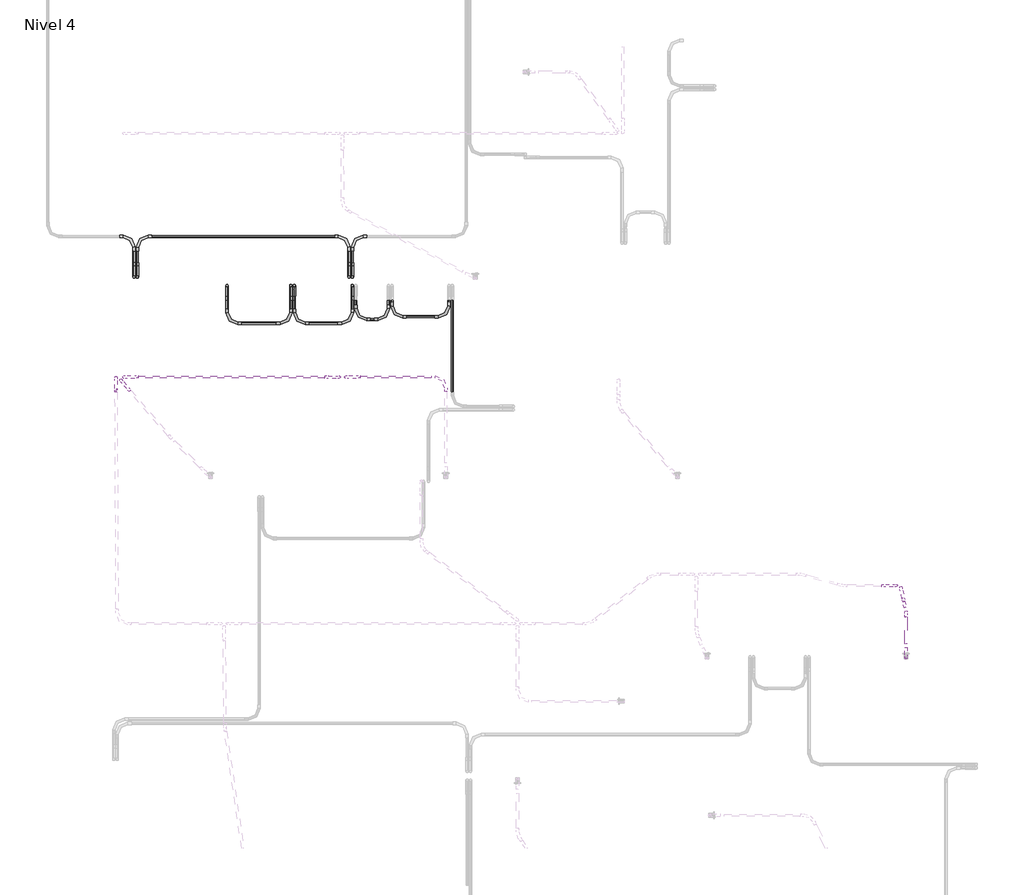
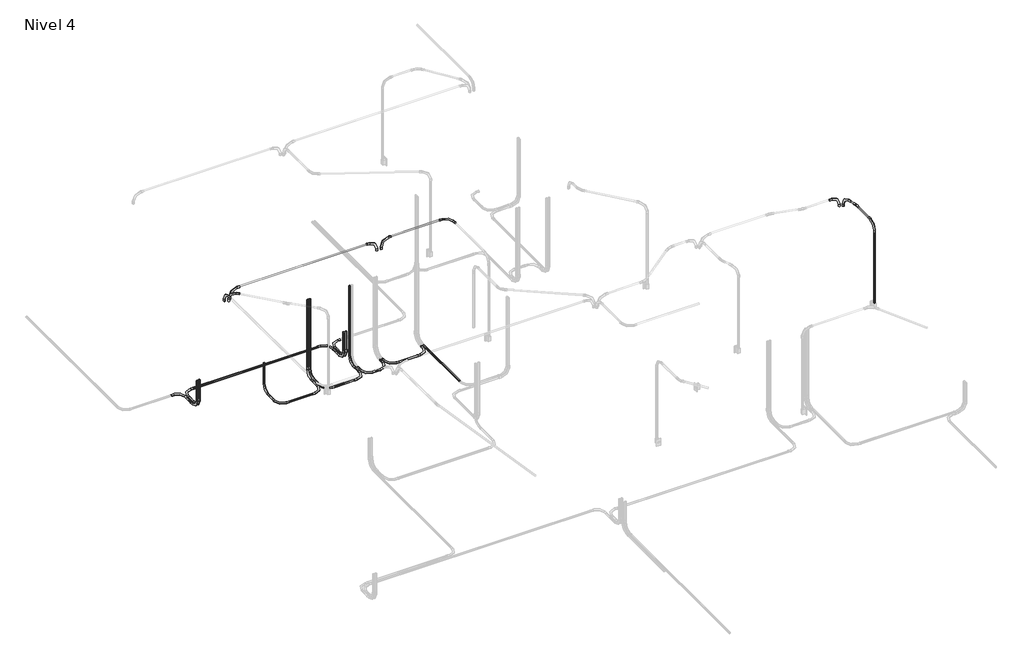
# One storey, part 5 of 9: 31 cable carrier segments, 30 cable carrier fittings.
"""IFC4 building model written with IfcOpenShell, lengths in millimetres."""

from ifc_helpers import new_model, si_unit, point, frame, frame_2d, origin, place, context, project, spatial, circle_curve, trimmed, segment, composite_curve, outline, extrude, transform, mapped, element, save
from components import m_codo_de_tubo_extremo_liso_pvc_9da73e12, m_codo_de_tubo_extremo_liso_pvc_102f0f41, m_codo_de_tubo_extremo_liso_pvc_2c15a8ce

model = new_model("IFC4")

# Units and contexts
model_context = context("Model", 3, world=origin())
ifc_project = project(units=[si_unit("LENGTHUNIT", "METRE", prefix="MILLI")], contexts=[model_context])

# Site, building, storey
site = spatial("IfcSite", under=ifc_project)
building = spatial("IfcBuilding", under=site)
storey = spatial("IfcBuildingStorey", under=building, Name="Nivel 4", Elevation=8100.0)

# Cable carrier fittings
placement = place(None, origin())
m_codo_de_tubo_extremo_liso_pvc_shape = m_codo_de_tubo_extremo_liso_pvc_9da73e12(model_context)
element("IfcCableCarrierFitting", 1, ObjectType="M_Codo de tubo - Extremo liso - PVC : CODO POTENCIA", at=placement, inside=storey, context=model_context, shape_type="MappedRepresentation", body=[
    mapped(m_codo_de_tubo_extremo_liso_pvc_shape, transform((194.4474418, 9095.3628882, 8030.0), x_axis=(0.0, 0.0, -1.0), y_axis=(0.0, 1.0, 0.0), z_axis=(1.0, 0.0, 0.0))),
])
element("IfcCableCarrierFitting", 2, ObjectType="M_Codo de tubo - Extremo liso - PVC : CODO POTENCIA", at=placement, inside=storey, context=model_context, shape_type="MappedRepresentation", body=[
    mapped(m_codo_de_tubo_extremo_liso_pvc_shape, transform((2471.9287441, 9095.3628882, 8030.0), x_axis=(0.0, 0.0, -1.0), y_axis=(0.0, 1.0, 0.0), z_axis=(1.0, 0.0, 0.0))),
])
element("IfcCableCarrierFitting", 3, ObjectType="M_Codo de tubo - Extremo liso - PVC : CODO POTENCIA", at=placement, inside=storey, context=model_context, shape_type="MappedRepresentation", body=[
    mapped(m_codo_de_tubo_extremo_liso_pvc_shape, transform((2507.9923837, 9523.463856, 8030.0), x_axis=(-1.0, 0.0, 0.0), y_axis=(0.0, -1.0, 0.0), z_axis=(0.0, 0.0, 1.0))),
])
element("IfcCableCarrierFitting", 4, ObjectType="M_Codo de tubo - Extremo liso - PVC : CODO POTENCIA", at=placement, inside=storey, context=model_context, shape_type="MappedRepresentation", body=[
    mapped(m_codo_de_tubo_extremo_liso_pvc_shape, transform((2507.9923837, 9095.3628882, 8030.0), x_axis=(0.0, 0.0, -1.0), y_axis=(0.0, 1.0, 0.0), z_axis=(1.0, 0.0, 0.0))),
])
element("IfcCableCarrierFitting", 5, ObjectType="M_Codo de tubo - Extremo liso - PVC : CODO POTENCIA", at=placement, inside=storey, context=model_context, shape_type="MappedRepresentation", body=[
    mapped(m_codo_de_tubo_extremo_liso_pvc_shape, transform((2471.9287441, 9523.463856, 8030.0), x_axis=(0.0, 1.0, 0.0), y_axis=(-1.0, 0.0, 0.0), z_axis=(0.0, 0.0, 1.0))),
])
element("IfcCableCarrierFitting", 6, ObjectType="M_Codo de tubo - Extremo liso - PVC : CODO POTENCIA", at=placement, inside=storey, context=model_context, shape_type="MappedRepresentation", body=[
    mapped(m_codo_de_tubo_extremo_liso_pvc_shape, transform((230.5110814, 9523.463856, 8030.0), x_axis=(-1.0, 0.0, 0.0), y_axis=(0.0, -1.0, 0.0), z_axis=(0.0, 0.0, 1.0))),
])
element("IfcCableCarrierFitting", 7, ObjectType="M_Codo de tubo - Extremo liso - PVC : CODO POTENCIA", at=placement, inside=storey, context=model_context, shape_type="MappedRepresentation", body=[
    mapped(m_codo_de_tubo_extremo_liso_pvc_shape, transform((230.5110814, 9095.3628882, 8030.0), x_axis=(0.0, 0.0, -1.0), y_axis=(0.0, 1.0, 0.0), z_axis=(1.0, 0.0, 0.0))),
])
element("IfcCableCarrierFitting", 8, ObjectType="M_Codo de tubo - Extremo liso - PVC : CODO POTENCIA", at=placement, inside=storey, context=model_context, shape_type="MappedRepresentation", body=[
    mapped(m_codo_de_tubo_extremo_liso_pvc_shape, transform((194.4474418, 9523.463856, 8030.0), x_axis=(0.0, 1.0, 0.0), y_axis=(-1.0, 0.0, 0.0), z_axis=(0.0, 0.0, 1.0))),
])
element("IfcCableCarrierFitting", 9, ObjectType="M_Codo de tubo - Extremo liso - PVC : CODO POTENCIA", at=placement, inside=storey, context=model_context, shape_type="MappedRepresentation", body=[
    mapped(m_codo_de_tubo_extremo_liso_pvc_shape, transform((1181.3168754, 9004.6371118, 8030.0), x_axis=(0.0, 0.0, -1.0), y_axis=(0.0, -1.0, 0.0), z_axis=(-1.0, 0.0, 0.0))),
])
element("IfcCableCarrierFitting", 10, ObjectType="M_Codo de tubo - Extremo liso - PVC : CODO POTENCIA", at=placement, inside=storey, context=model_context, shape_type="MappedRepresentation", body=[
    mapped(m_codo_de_tubo_extremo_liso_pvc_shape, transform((1856.6567743, 9004.6371118, 8030.0), x_axis=(0.0, 0.0, -1.0), y_axis=(0.0, -1.0, 0.0), z_axis=(-1.0, 0.0, 0.0))),
])
element("IfcCableCarrierFitting", 11, ObjectType="M_Codo de tubo - Extremo liso - PVC : CODO POTENCIA", at=placement, inside=storey, context=model_context, shape_type="MappedRepresentation", body=[
    mapped(m_codo_de_tubo_extremo_liso_pvc_shape, transform((1892.720414, 9004.6371118, 8030.0), x_axis=(0.0, 0.0, -1.0), y_axis=(0.0, -1.0, 0.0), z_axis=(-1.0, 0.0, 0.0))),
])
element("IfcCableCarrierFitting", 12, ObjectType="M_Codo de tubo - Extremo liso - PVC : CODO POTENCIA", at=placement, inside=storey, context=model_context, shape_type="MappedRepresentation", body=[
    mapped(m_codo_de_tubo_extremo_liso_pvc_shape, transform((2507.6648665, 9004.6371118, 8030.0), x_axis=(0.0, 0.0, -1.0), y_axis=(0.0, -1.0, 0.0), z_axis=(-1.0, 0.0, 0.0))),
])
element("IfcCableCarrierFitting", 13, ObjectType="M_Codo de tubo - Extremo liso - PVC : CODO POTENCIA", at=placement, inside=storey, context=model_context, shape_type="MappedRepresentation", body=[
    mapped(m_codo_de_tubo_extremo_liso_pvc_shape, transform((1856.6567743, 8604.6371118, 8030.0), x_axis=(1.0, 0.0, 0.0), y_axis=(0.0, 1.0, 0.0), z_axis=(0.0, 0.0, 1.0))),
])
element("IfcCableCarrierFitting", 14, ObjectType="M_Codo de tubo - Extremo liso - PVC : CODO POTENCIA", at=placement, inside=storey, context=model_context, shape_type="MappedRepresentation", body=[
    mapped(m_codo_de_tubo_extremo_liso_pvc_shape, transform((1181.3168754, 8604.6371118, 8030.0), x_axis=(0.0, -1.0, 0.0), y_axis=(1.0, 0.0, 0.0), z_axis=(0.0, 0.0, 1.0))),
])
element("IfcCableCarrierFitting", 15, ObjectType="M_Codo de tubo - Extremo liso - PVC : CODO POTENCIA", at=placement, inside=storey, context=model_context, shape_type="MappedRepresentation", body=[
    mapped(m_codo_de_tubo_extremo_liso_pvc_shape, transform((2890.8449158, 8644.6371118, 8030.0), x_axis=(1.0, 0.0, 0.0), y_axis=(0.0, 1.0, 0.0), z_axis=(0.0, 0.0, 1.0))),
])
element("IfcCableCarrierFitting", 16, ObjectType="M_Codo de tubo - Extremo liso - PVC : CODO POTENCIA", at=placement, inside=storey, context=model_context, shape_type="MappedRepresentation", body=[
    mapped(m_codo_de_tubo_extremo_liso_pvc_shape, transform((2543.7285061, 8644.6371118, 8030.0), x_axis=(0.0, -1.0, 0.0), y_axis=(1.0, 0.0, 0.0), z_axis=(0.0, 0.0, 1.0))),
])
element("IfcCableCarrierFitting", 17, ObjectType="M_Codo de tubo - Extremo liso - PVC : CODO POTENCIA", at=placement, inside=storey, context=model_context, shape_type="MappedRepresentation", body=[
    mapped(m_codo_de_tubo_extremo_liso_pvc_shape, transform((2507.6648665, 8604.6371118, 8030.0), x_axis=(1.0, 0.0, 0.0), y_axis=(0.0, 1.0, 0.0), z_axis=(0.0, 0.0, 1.0))),
])
element("IfcCableCarrierFitting", 18, ObjectType="M_Codo de tubo - Extremo liso - PVC : CODO POTENCIA", at=placement, inside=storey, context=model_context, shape_type="MappedRepresentation", body=[
    mapped(m_codo_de_tubo_extremo_liso_pvc_shape, transform((1892.720414, 8604.6371118, 8030.0), x_axis=(0.0, -1.0, 0.0), y_axis=(1.0, 0.0, 0.0), z_axis=(0.0, 0.0, 1.0))),
])
element("IfcCableCarrierFitting", 19, ObjectType="M_Codo de tubo - Extremo liso - PVC : CODO POTENCIA", at=placement, inside=storey, context=model_context, shape_type="MappedRepresentation", body=[
    mapped(m_codo_de_tubo_extremo_liso_pvc_shape, transform((2926.9085554, 8674.6371118, 8030.0), x_axis=(0.0, -1.0, 0.0), y_axis=(1.0, 0.0, 0.0), z_axis=(0.0, 0.0, 1.0))),
])
element("IfcCableCarrierFitting", 20, ObjectType="M_Codo de tubo - Extremo liso - PVC : CODO POTENCIA", at=placement, inside=storey, context=model_context, shape_type="MappedRepresentation", body=[
    mapped(m_codo_de_tubo_extremo_liso_pvc_shape, transform((3530.4120251, 8674.6371118, 8030.0), x_axis=(1.0, 0.0, 0.0), y_axis=(0.0, 1.0, 0.0), z_axis=(0.0, 0.0, 1.0))),
])
element("IfcCableCarrierFitting", 21, ObjectType="M_Codo de tubo - Extremo liso - PVC : CODO ILUMINACION", at=placement, inside=storey, context=model_context, shape_type="MappedRepresentation", body=[
    mapped(m_codo_de_tubo_extremo_liso_pvc_shape, transform((88.3958853, 8034.5901689, 10650.0), x_axis=(-1.0, 0.0, 0.0), y_axis=(0.0, 0.0, -1.0), z_axis=(0.0, -1.0, 0.0))),
])
element("IfcCableCarrierFitting", 22, ObjectType="M_Codo de tubo - Extremo liso - PVC : CODO ILUMINACION", at=placement, inside=storey, context=model_context, shape_type="MappedRepresentation", body=[
    mapped(m_codo_de_tubo_extremo_liso_pvc_shape, transform((2437.1421514, 8034.5901689, 10650.0), x_axis=(-1.0, 0.0, 0.0), y_axis=(0.0, 0.0, -1.0), z_axis=(0.0, -1.0, 0.0))),
])
element("IfcCableCarrierFitting", 23, ObjectType="M_Codo de tubo - Extremo liso - PVC : CODO ILUMINACION", at=placement, inside=storey, context=model_context, shape_type="MappedRepresentation", body=[
    mapped(m_codo_de_tubo_extremo_liso_pvc_shape, transform((3497.5007971, 8034.5901689, 10650.0), x_axis=(0.0, 1.0, 0.0), y_axis=(-1.0, 0.0, 0.0), z_axis=(0.0, 0.0, 1.0))),
])
element("IfcCableCarrierFitting", 24, ObjectType="M_Codo de tubo - Extremo liso - PVC : CODO ILUMINACION", at=placement, inside=storey, context=model_context, shape_type="MappedRepresentation", body=[
    mapped(m_codo_de_tubo_extremo_liso_pvc_shape, transform((8316.6972499, 5804.4592835, 10650.0), x_axis=(-0.2079116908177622, 0.978147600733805, 0.0), y_axis=(0.0, 0.0, -1.0), z_axis=(-0.978147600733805, -0.2079116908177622, 0.0))),
])
element("IfcCableCarrierFitting", 25, ObjectType="M_Codo de tubo - Extremo liso - PVC : CODO ILUMINACION", at=placement, inside=storey, context=model_context, shape_type="MappedRepresentation", body=[
    mapped(m_codo_de_tubo_extremo_liso_pvc_shape, transform((8372.2907497, 5056.8611243, 10650.0), x_axis=(0.0, 0.0, 1.0), y_axis=(0.0, 1.0, 0.0), z_axis=(-1.0, 0.0, 0.0))),
])
m_codo_de_tubo_extremo_liso_pvc_2_shape = m_codo_de_tubo_extremo_liso_pvc_102f0f41(model_context)
element("IfcCableCarrierFitting", 26, ObjectType="M_Codo de tubo - Extremo liso - PVC : CODO ILUMINACION", at=placement, inside=storey, context=model_context, shape_type="MappedRepresentation", body=[
    mapped(m_codo_de_tubo_extremo_liso_pvc_2_shape, transform((2369.1118904, 8034.5901689, 10650.0), x_axis=(1.0, 0.0, 0.0), y_axis=(0.0, 0.0, 1.0), z_axis=(0.0, -1.0, 0.0))),
])
element("IfcCableCarrierFitting", 27, ObjectType="M_Codo de tubo - Extremo liso - PVC : CODO ILUMINACION", at=placement, inside=storey, context=model_context, shape_type="MappedRepresentation", body=[
    mapped(m_codo_de_tubo_extremo_liso_pvc_2_shape, transform((8269.3235905, 5825.8353075, 10650.0), x_axis=(1.0, 0.0, 0.0), y_axis=(0.0, 0.0, 1.0), z_axis=(0.0, -1.0, 0.0))),
])
element("IfcCableCarrierFitting", 28, ObjectType="M_Codo de tubo - Extremo liso - PVC : CODO ILUMINACION", at=placement, inside=storey, context=model_context, shape_type="MappedRepresentation", body=[
    mapped(m_codo_de_tubo_extremo_liso_pvc_2_shape, transform((54.7290552, 8003.7690108, 10650.0), x_axis=(-0.6458247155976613, 0.7634857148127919, 0.0), y_axis=(0.0, 0.0, 1.0), z_axis=(0.7634857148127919, 0.6458247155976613, 0.0))),
])
element("IfcCableCarrierFitting", 29, ObjectType="M_Codo de tubo - Extremo liso - PVC : CODO ILUMINACION", at=placement, inside=storey, context=model_context, shape_type="MappedRepresentation", body=[
    mapped(m_codo_de_tubo_extremo_liso_pvc_2_shape, transform((4.5289809, 8029.5330199, 10650.0), x_axis=(-0.004558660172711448, 0.9999896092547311, 0.0), y_axis=(0.0, 0.0, 1.0000000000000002), z_axis=(0.9999896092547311, 0.004558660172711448, 0.0))),
])
m_codo_de_tubo_extremo_liso_pvc_3_shape = m_codo_de_tubo_extremo_liso_pvc_2c15a8ce(model_context)
element("IfcCableCarrierFitting", 30, ObjectType="M_Codo de tubo - Extremo liso - PVC : CODO ILUMINACION", at=placement, inside=storey, context=model_context, shape_type="MappedRepresentation", body=[
    mapped(m_codo_de_tubo_extremo_liso_pvc_3_shape, transform((8372.2907497, 5542.9124303, 10650.0), x_axis=(0.0, 1.0, 0.0), y_axis=(-1.0, 0.0, 0.0), z_axis=(0.0, 0.0, 1.0))),
])

# Cable carrier segments
element("IfcCableCarrierSegment", 31, ObjectType="PVC-SEL, POTENCIA", at=placement, inside=storey, context=model_context, shape_type="SweptSolid", body=[
    extrude(outline(composite_curve([segment(trimmed(circle_curve(frame_2d((8030.0, 230.5110814)), 11.71), [point((8030.0, 218.8010814))], [point((8018.29, 230.5110814))], False, "CARTESIAN"), True, "CONTINUOUS"), segment(trimmed(circle_curve(frame_2d((8030.0, 230.5110814)), 11.71), [point((8018.29, 230.5110814))], [point((8030.0, 242.2210814))], False, "CARTESIAN"), True, "CONTINUOUS"), segment(trimmed(circle_curve(frame_2d((8030.0, 230.5110814)), 11.71), [point((8030.0, 242.2210814))], [point((8041.71, 230.5110814))], False, "CARTESIAN"), True, "CONTINUOUS"), segment(trimmed(circle_curve(frame_2d((8030.0, 230.5110814)), 11.71), [point((8041.71, 230.5110814))], [point((8030.0, 218.8010814))], False, "CARTESIAN"), True, "CONTINUOUS")], self_intersect=False)), frame((0.0, 9247.7628882, 0.0), z_axis=(0.0, 1.0, 0.0), x_axis=(0.0, 0.0, 1.0)), (0.0, 0.0, 1.0), 123.3009678),
])
element("IfcCableCarrierSegment", 32, ObjectType="PVC-SEL, POTENCIA", at=placement, inside=storey, context=model_context, shape_type="SweptSolid", body=[
    extrude(outline(composite_curve([segment(trimmed(circle_curve(frame_2d((230.5110814, 9095.3628882)), 11.71), [point((242.2210814, 9095.3628882))], [point((230.5110814, 9083.6528882))], False, "CARTESIAN"), True, "CONTINUOUS"), segment(trimmed(circle_curve(frame_2d((230.5110814, 9095.3628882)), 11.71), [point((230.5110814, 9083.6528882))], [point((218.8010814, 9095.3628882))], False, "CARTESIAN"), True, "CONTINUOUS"), segment(trimmed(circle_curve(frame_2d((230.5110814, 9095.3628882)), 11.71), [point((218.8010814, 9095.3628882))], [point((230.5110814, 9107.0728882))], False, "CARTESIAN"), True, "CONTINUOUS"), segment(trimmed(circle_curve(frame_2d((230.5110814, 9095.3628882)), 11.71), [point((230.5110814, 9107.0728882))], [point((242.2210814, 9095.3628882))], False, "CARTESIAN"), True, "CONTINUOUS")], self_intersect=False)), frame((0.0, 0.0, 8182.4), z_axis=(0.0, 0.0, 1.0), x_axis=(1.0, 0.0, 0.0)), (0.0, 0.0, 1.0), 297.3020537),
])
element("IfcCableCarrierSegment", 33, ObjectType="PVC-SEL, POTENCIA", at=placement, inside=storey, context=model_context, shape_type="SweptSolid", body=[
    extrude(outline(composite_curve([segment(trimmed(circle_curve(frame_2d((8030.0, 194.4474418)), 11.71), [point((8030.0, 206.1574418))], [point((8041.71, 194.4474418))], False, "CARTESIAN"), True, "CONTINUOUS"), segment(trimmed(circle_curve(frame_2d((8030.0, 194.4474418)), 11.71), [point((8041.71, 194.4474418))], [point((8030.0, 182.7374418))], False, "CARTESIAN"), True, "CONTINUOUS"), segment(trimmed(circle_curve(frame_2d((8030.0, 194.4474418)), 11.71), [point((8030.0, 182.7374418))], [point((8018.29, 194.4474418))], False, "CARTESIAN"), True, "CONTINUOUS"), segment(trimmed(circle_curve(frame_2d((8030.0, 194.4474418)), 11.71), [point((8018.29, 194.4474418))], [point((8030.0, 206.1574418))], False, "CARTESIAN"), True, "CONTINUOUS")], self_intersect=False)), frame((0.0, 9247.7628882, 0.0), z_axis=(0.0, 1.0, 0.0), x_axis=(0.0, 0.0, 1.0)), (0.0, 0.0, 1.0), 123.3009678),
])
element("IfcCableCarrierSegment", 34, ObjectType="PVC-SEL, POTENCIA", at=placement, inside=storey, context=model_context, shape_type="SweptSolid", body=[
    extrude(outline(composite_curve([segment(trimmed(circle_curve(frame_2d((194.4474418, 9095.3628882)), 11.71), [point((206.1574418, 9095.3628882))], [point((194.4474418, 9083.6528882))], False, "CARTESIAN"), True, "CONTINUOUS"), segment(trimmed(circle_curve(frame_2d((194.4474418, 9095.3628882)), 11.71), [point((194.4474418, 9083.6528882))], [point((182.7374418, 9095.3628882))], False, "CARTESIAN"), True, "CONTINUOUS"), segment(trimmed(circle_curve(frame_2d((194.4474418, 9095.3628882)), 11.71), [point((182.7374418, 9095.3628882))], [point((194.4474418, 9107.0728882))], False, "CARTESIAN"), True, "CONTINUOUS"), segment(trimmed(circle_curve(frame_2d((194.4474418, 9095.3628882)), 11.71), [point((194.4474418, 9107.0728882))], [point((206.1574418, 9095.3628882))], False, "CARTESIAN"), True, "CONTINUOUS")], self_intersect=False)), frame((0.0, 0.0, 8182.4), z_axis=(0.0, 0.0, 1.0), x_axis=(1.0, 0.0, 0.0)), (0.0, 0.0, 1.0), 297.3020537),
])
element("IfcCableCarrierSegment", 35, ObjectType="PVC-SEL, POTENCIA", at=placement, inside=storey, context=model_context, shape_type="SweptSolid", body=[
    extrude(outline(composite_curve([segment(trimmed(circle_curve(frame_2d((8030.0, 2507.9923837)), 11.71), [point((8030.0, 2496.2823837))], [point((8018.29, 2507.9923837))], False, "CARTESIAN"), True, "CONTINUOUS"), segment(trimmed(circle_curve(frame_2d((8030.0, 2507.9923837)), 11.71), [point((8018.29, 2507.9923837))], [point((8030.0, 2519.7023837))], False, "CARTESIAN"), True, "CONTINUOUS"), segment(trimmed(circle_curve(frame_2d((8030.0, 2507.9923837)), 11.71), [point((8030.0, 2519.7023837))], [point((8041.71, 2507.9923837))], False, "CARTESIAN"), True, "CONTINUOUS"), segment(trimmed(circle_curve(frame_2d((8030.0, 2507.9923837)), 11.71), [point((8041.71, 2507.9923837))], [point((8030.0, 2496.2823837))], False, "CARTESIAN"), True, "CONTINUOUS")], self_intersect=False)), frame((0.0, 9247.7628882, 0.0), z_axis=(0.0, 1.0, 0.0), x_axis=(0.0, 0.0, 1.0)), (0.0, 0.0, 1.0), 123.3009678),
])
element("IfcCableCarrierSegment", 36, ObjectType="PVC-SEL, POTENCIA", at=placement, inside=storey, context=model_context, shape_type="SweptSolid", body=[
    extrude(outline(composite_curve([segment(trimmed(circle_curve(frame_2d((2507.9923837, 9095.3628882)), 11.71), [point((2519.7023837, 9095.3628882))], [point((2507.9923837, 9083.6528882))], False, "CARTESIAN"), True, "CONTINUOUS"), segment(trimmed(circle_curve(frame_2d((2507.9923837, 9095.3628882)), 11.71), [point((2507.9923837, 9083.6528882))], [point((2496.2823837, 9095.3628882))], False, "CARTESIAN"), True, "CONTINUOUS"), segment(trimmed(circle_curve(frame_2d((2507.9923837, 9095.3628882)), 11.71), [point((2496.2823837, 9095.3628882))], [point((2507.9923837, 9107.0728882))], False, "CARTESIAN"), True, "CONTINUOUS"), segment(trimmed(circle_curve(frame_2d((2507.9923837, 9095.3628882)), 11.71), [point((2507.9923837, 9107.0728882))], [point((2519.7023837, 9095.3628882))], False, "CARTESIAN"), True, "CONTINUOUS")], self_intersect=False)), frame((0.0, 0.0, 8182.4), z_axis=(0.0, 0.0, 1.0), x_axis=(1.0, 0.0, 0.0)), (0.0, 0.0, 1.0), 297.3020537),
])
element("IfcCableCarrierSegment", 37, ObjectType="PVC-SEL, POTENCIA", at=placement, inside=storey, context=model_context, shape_type="SweptSolid", body=[
    extrude(outline(composite_curve([segment(trimmed(circle_curve(frame_2d((8030.0, 2471.9287441)), 11.71), [point((8030.0, 2483.6387441))], [point((8041.71, 2471.9287441))], False, "CARTESIAN"), True, "CONTINUOUS"), segment(trimmed(circle_curve(frame_2d((8030.0, 2471.9287441)), 11.71), [point((8041.71, 2471.9287441))], [point((8030.0, 2460.2187441))], False, "CARTESIAN"), True, "CONTINUOUS"), segment(trimmed(circle_curve(frame_2d((8030.0, 2471.9287441)), 11.71), [point((8030.0, 2460.2187441))], [point((8018.29, 2471.9287441))], False, "CARTESIAN"), True, "CONTINUOUS"), segment(trimmed(circle_curve(frame_2d((8030.0, 2471.9287441)), 11.71), [point((8018.29, 2471.9287441))], [point((8030.0, 2483.6387441))], False, "CARTESIAN"), True, "CONTINUOUS")], self_intersect=False)), frame((0.0, 9247.7628882, 0.0), z_axis=(0.0, 1.0, 0.0), x_axis=(0.0, 0.0, 1.0)), (0.0, 0.0, 1.0), 123.3009678),
])
element("IfcCableCarrierSegment", 38, ObjectType="PVC-SEL, POTENCIA", at=placement, inside=storey, context=model_context, shape_type="SweptSolid", body=[
    extrude(outline(composite_curve([segment(trimmed(circle_curve(frame_2d((2471.9287441, 9095.3628882)), 11.71), [point((2483.6387441, 9095.3628882))], [point((2471.9287441, 9083.6528882))], False, "CARTESIAN"), True, "CONTINUOUS"), segment(trimmed(circle_curve(frame_2d((2471.9287441, 9095.3628882)), 11.71), [point((2471.9287441, 9083.6528882))], [point((2460.2187441, 9095.3628882))], False, "CARTESIAN"), True, "CONTINUOUS"), segment(trimmed(circle_curve(frame_2d((2471.9287441, 9095.3628882)), 11.71), [point((2460.2187441, 9095.3628882))], [point((2471.9287441, 9107.0728882))], False, "CARTESIAN"), True, "CONTINUOUS"), segment(trimmed(circle_curve(frame_2d((2471.9287441, 9095.3628882)), 11.71), [point((2471.9287441, 9107.0728882))], [point((2483.6387441, 9095.3628882))], False, "CARTESIAN"), True, "CONTINUOUS")], self_intersect=False)), frame((0.0, 0.0, 8182.4), z_axis=(0.0, 0.0, 1.0), x_axis=(1.0, 0.0, 0.0)), (0.0, 0.0, 1.0), 297.3020537),
])
element("IfcCableCarrierSegment", 39, ObjectType="PVC-SEL, POTENCIA", at=placement, inside=storey, context=model_context, shape_type="SweptSolid", body=[
    extrude(outline(composite_curve([segment(trimmed(circle_curve(frame_2d((9523.463856, 8030.0)), 11.71), [point((9535.173856, 8030.0))], [point((9523.463856, 8018.29))], False, "CARTESIAN"), True, "CONTINUOUS"), segment(trimmed(circle_curve(frame_2d((9523.463856, 8030.0)), 11.71), [point((9523.463856, 8018.29))], [point((9511.753856, 8030.0))], False, "CARTESIAN"), True, "CONTINUOUS"), segment(trimmed(circle_curve(frame_2d((9523.463856, 8030.0)), 11.71), [point((9511.753856, 8030.0))], [point((9523.463856, 8041.71))], False, "CARTESIAN"), True, "CONTINUOUS"), segment(trimmed(circle_curve(frame_2d((9523.463856, 8030.0)), 11.71), [point((9523.463856, 8041.71))], [point((9535.173856, 8030.0))], False, "CARTESIAN"), True, "CONTINUOUS")], self_intersect=False)), frame((382.9110814, 0.0, 0.0), z_axis=(1.0, 0.0, 0.0), x_axis=(0.0, 1.0, 0.0)), (0.0, 0.0, 1.0), 1936.6176627),
])
element("IfcCableCarrierSegment", 40, ObjectType="PVC-SEL, POTENCIA", at=placement, inside=storey, context=model_context, shape_type="SweptSolid", body=[
    extrude(outline(composite_curve([segment(trimmed(circle_curve(frame_2d((8030.0, 1181.3168754)), 11.71), [point((8030.0, 1169.6068754))], [point((8018.29, 1181.3168754))], False, "CARTESIAN"), True, "CONTINUOUS"), segment(trimmed(circle_curve(frame_2d((8030.0, 1181.3168754)), 11.71), [point((8018.29, 1181.3168754))], [point((8030.0, 1193.0268754))], False, "CARTESIAN"), True, "CONTINUOUS"), segment(trimmed(circle_curve(frame_2d((8030.0, 1181.3168754)), 11.71), [point((8030.0, 1193.0268754))], [point((8041.71, 1181.3168754))], False, "CARTESIAN"), True, "CONTINUOUS"), segment(trimmed(circle_curve(frame_2d((8030.0, 1181.3168754)), 11.71), [point((8041.71, 1181.3168754))], [point((8030.0, 1169.6068754))], False, "CARTESIAN"), True, "CONTINUOUS")], self_intersect=False)), frame((0.0, 8757.0371118, 0.0), z_axis=(0.0, 1.0, 0.0), x_axis=(0.0, 0.0, 1.0)), (0.0, 0.0, 1.0), 95.2),
])
element("IfcCableCarrierSegment", 41, ObjectType="PVC-SEL, POTENCIA", at=placement, inside=storey, context=model_context, shape_type="SweptSolid", body=[
    extrude(outline(composite_curve([segment(trimmed(circle_curve(frame_2d((1181.3168754, 9004.6371118)), 11.71), [point((1193.0268754, 9004.6371118))], [point((1181.3168754, 8992.9271118))], False, "CARTESIAN"), True, "CONTINUOUS"), segment(trimmed(circle_curve(frame_2d((1181.3168754, 9004.6371118)), 11.71), [point((1181.3168754, 8992.9271118))], [point((1169.6068754, 9004.6371118))], False, "CARTESIAN"), True, "CONTINUOUS"), segment(trimmed(circle_curve(frame_2d((1181.3168754, 9004.6371118)), 11.71), [point((1169.6068754, 9004.6371118))], [point((1181.3168754, 9016.3471118))], False, "CARTESIAN"), True, "CONTINUOUS"), segment(trimmed(circle_curve(frame_2d((1181.3168754, 9004.6371118)), 11.71), [point((1181.3168754, 9016.3471118))], [point((1193.0268754, 9004.6371118))], False, "CARTESIAN"), True, "CONTINUOUS")], self_intersect=False)), frame((0.0, 0.0, 8182.4), z_axis=(0.0, 0.0, 1.0), x_axis=(1.0, 0.0, 0.0)), (0.0, 0.0, 1.0), 297.3020537),
])
element("IfcCableCarrierSegment", 42, ObjectType="PVC-SEL, POTENCIA", at=placement, inside=storey, context=model_context, shape_type="SweptSolid", body=[
    extrude(outline(composite_curve([segment(trimmed(circle_curve(frame_2d((8604.6371118, 8030.0)), 11.71), [point((8616.3471118, 8030.0))], [point((8604.6371118, 8018.29))], False, "CARTESIAN"), True, "CONTINUOUS"), segment(trimmed(circle_curve(frame_2d((8604.6371118, 8030.0)), 11.71), [point((8604.6371118, 8018.29))], [point((8592.9271118, 8030.0))], False, "CARTESIAN"), True, "CONTINUOUS"), segment(trimmed(circle_curve(frame_2d((8604.6371118, 8030.0)), 11.71), [point((8592.9271118, 8030.0))], [point((8604.6371118, 8041.71))], False, "CARTESIAN"), True, "CONTINUOUS"), segment(trimmed(circle_curve(frame_2d((8604.6371118, 8030.0)), 11.71), [point((8604.6371118, 8041.71))], [point((8616.3471118, 8030.0))], False, "CARTESIAN"), True, "CONTINUOUS")], self_intersect=False)), frame((1333.7168754, 0.0, 0.0), z_axis=(1.0, 0.0, 0.0), x_axis=(0.0, 1.0, 0.0)), (0.0, 0.0, 1.0), 370.5398989),
])
element("IfcCableCarrierSegment", 43, ObjectType="PVC-SEL, POTENCIA", at=placement, inside=storey, context=model_context, shape_type="SweptSolid", body=[
    extrude(outline(composite_curve([segment(trimmed(circle_curve(frame_2d((8030.0, 1856.6567743)), 11.71), [point((8030.0, 1844.9467743))], [point((8018.29, 1856.6567743))], False, "CARTESIAN"), True, "CONTINUOUS"), segment(trimmed(circle_curve(frame_2d((8030.0, 1856.6567743)), 11.71), [point((8018.29, 1856.6567743))], [point((8030.0, 1868.3667743))], False, "CARTESIAN"), True, "CONTINUOUS"), segment(trimmed(circle_curve(frame_2d((8030.0, 1856.6567743)), 11.71), [point((8030.0, 1868.3667743))], [point((8041.71, 1856.6567743))], False, "CARTESIAN"), True, "CONTINUOUS"), segment(trimmed(circle_curve(frame_2d((8030.0, 1856.6567743)), 11.71), [point((8041.71, 1856.6567743))], [point((8030.0, 1844.9467743))], False, "CARTESIAN"), True, "CONTINUOUS")], self_intersect=False)), frame((0.0, 8757.0371118, 0.0), z_axis=(0.0, 1.0, 0.0), x_axis=(0.0, 0.0, 1.0)), (0.0, 0.0, 1.0), 95.2),
])
element("IfcCableCarrierSegment", 44, ObjectType="PVC-SEL, POTENCIA", at=placement, inside=storey, context=model_context, shape_type="SweptSolid", body=[
    extrude(outline(composite_curve([segment(trimmed(circle_curve(frame_2d((1856.6567743, 9004.6371118)), 11.71), [point((1868.3667743, 9004.6371118))], [point((1856.6567743, 8992.9271118))], False, "CARTESIAN"), True, "CONTINUOUS"), segment(trimmed(circle_curve(frame_2d((1856.6567743, 9004.6371118)), 11.71), [point((1856.6567743, 8992.9271118))], [point((1844.9467743, 9004.6371118))], False, "CARTESIAN"), True, "CONTINUOUS"), segment(trimmed(circle_curve(frame_2d((1856.6567743, 9004.6371118)), 11.71), [point((1844.9467743, 9004.6371118))], [point((1856.6567743, 9016.3471118))], False, "CARTESIAN"), True, "CONTINUOUS"), segment(trimmed(circle_curve(frame_2d((1856.6567743, 9004.6371118)), 11.71), [point((1856.6567743, 9016.3471118))], [point((1868.3667743, 9004.6371118))], False, "CARTESIAN"), True, "CONTINUOUS")], self_intersect=False)), frame((0.0, 0.0, 8182.4), z_axis=(0.0, 0.0, 1.0), x_axis=(1.0, 0.0, 0.0)), (0.0, 0.0, 1.0), 1097.3020537),
])
element("IfcCableCarrierSegment", 45, ObjectType="PVC-SEL, POTENCIA", at=placement, inside=storey, context=model_context, shape_type="SweptSolid", body=[
    extrude(outline(composite_curve([segment(trimmed(circle_curve(frame_2d((8030.0, 1892.720414)), 11.71), [point((8030.0, 1881.010414))], [point((8018.29, 1892.720414))], False, "CARTESIAN"), True, "CONTINUOUS"), segment(trimmed(circle_curve(frame_2d((8030.0, 1892.720414)), 11.71), [point((8018.29, 1892.720414))], [point((8030.0, 1904.430414))], False, "CARTESIAN"), True, "CONTINUOUS"), segment(trimmed(circle_curve(frame_2d((8030.0, 1892.720414)), 11.71), [point((8030.0, 1904.430414))], [point((8041.71, 1892.720414))], False, "CARTESIAN"), True, "CONTINUOUS"), segment(trimmed(circle_curve(frame_2d((8030.0, 1892.720414)), 11.71), [point((8041.71, 1892.720414))], [point((8030.0, 1881.010414))], False, "CARTESIAN"), True, "CONTINUOUS")], self_intersect=False)), frame((0.0, 8757.0371118, 0.0), z_axis=(0.0, 1.0, 0.0), x_axis=(0.0, 0.0, 1.0)), (0.0, 0.0, 1.0), 95.2),
])
element("IfcCableCarrierSegment", 46, ObjectType="PVC-SEL, POTENCIA", at=placement, inside=storey, context=model_context, shape_type="SweptSolid", body=[
    extrude(outline(composite_curve([segment(trimmed(circle_curve(frame_2d((1892.720414, 9004.6371118)), 11.71), [point((1904.430414, 9004.6371118))], [point((1892.720414, 8992.9271118))], False, "CARTESIAN"), True, "CONTINUOUS"), segment(trimmed(circle_curve(frame_2d((1892.720414, 9004.6371118)), 11.71), [point((1892.720414, 8992.9271118))], [point((1881.010414, 9004.6371118))], False, "CARTESIAN"), True, "CONTINUOUS"), segment(trimmed(circle_curve(frame_2d((1892.720414, 9004.6371118)), 11.71), [point((1881.010414, 9004.6371118))], [point((1892.720414, 9016.3471118))], False, "CARTESIAN"), True, "CONTINUOUS"), segment(trimmed(circle_curve(frame_2d((1892.720414, 9004.6371118)), 11.71), [point((1892.720414, 9016.3471118))], [point((1904.430414, 9004.6371118))], False, "CARTESIAN"), True, "CONTINUOUS")], self_intersect=False)), frame((0.0, 0.0, 8182.4), z_axis=(0.0, 0.0, 1.0), x_axis=(1.0, 0.0, 0.0)), (0.0, 0.0, 1.0), 1097.3020537),
])
element("IfcCableCarrierSegment", 47, ObjectType="PVC-SEL, POTENCIA", at=placement, inside=storey, context=model_context, shape_type="SweptSolid", body=[
    extrude(outline(composite_curve([segment(trimmed(circle_curve(frame_2d((8030.0, 2507.6648665)), 11.71), [point((8030.0, 2495.9548665))], [point((8018.29, 2507.6648665))], False, "CARTESIAN"), True, "CONTINUOUS"), segment(trimmed(circle_curve(frame_2d((8030.0, 2507.6648665)), 11.71), [point((8018.29, 2507.6648665))], [point((8030.0, 2519.3748665))], False, "CARTESIAN"), True, "CONTINUOUS"), segment(trimmed(circle_curve(frame_2d((8030.0, 2507.6648665)), 11.71), [point((8030.0, 2519.3748665))], [point((8041.71, 2507.6648665))], False, "CARTESIAN"), True, "CONTINUOUS"), segment(trimmed(circle_curve(frame_2d((8030.0, 2507.6648665)), 11.71), [point((8041.71, 2507.6648665))], [point((8030.0, 2495.9548665))], False, "CARTESIAN"), True, "CONTINUOUS")], self_intersect=False)), frame((0.0, 8757.0371118, 0.0), z_axis=(0.0, 1.0, 0.0), x_axis=(0.0, 0.0, 1.0)), (0.0, 0.0, 1.0), 95.2),
])
element("IfcCableCarrierSegment", 48, ObjectType="PVC-SEL, POTENCIA", at=placement, inside=storey, context=model_context, shape_type="SweptSolid", body=[
    extrude(outline(composite_curve([segment(trimmed(circle_curve(frame_2d((2507.6648665, 9004.6371118)), 11.71), [point((2519.3748665, 9004.6371118))], [point((2507.6648665, 8992.9271118))], False, "CARTESIAN"), True, "CONTINUOUS"), segment(trimmed(circle_curve(frame_2d((2507.6648665, 9004.6371118)), 11.71), [point((2507.6648665, 8992.9271118))], [point((2495.9548665, 9004.6371118))], False, "CARTESIAN"), True, "CONTINUOUS"), segment(trimmed(circle_curve(frame_2d((2507.6648665, 9004.6371118)), 11.71), [point((2495.9548665, 9004.6371118))], [point((2507.6648665, 9016.3471118))], False, "CARTESIAN"), True, "CONTINUOUS"), segment(trimmed(circle_curve(frame_2d((2507.6648665, 9004.6371118)), 11.71), [point((2507.6648665, 9016.3471118))], [point((2519.3748665, 9004.6371118))], False, "CARTESIAN"), True, "CONTINUOUS")], self_intersect=False)), frame((0.0, 0.0, 8182.4), z_axis=(0.0, 0.0, 1.0), x_axis=(1.0, 0.0, 0.0)), (0.0, 0.0, 1.0), 1097.3020537),
])
element("IfcCableCarrierSegment", 49, ObjectType="PVC-SEL, POTENCIA", at=placement, inside=storey, context=model_context, shape_type="SweptSolid", body=[
    extrude(outline(composite_curve([segment(trimmed(circle_curve(frame_2d((8030.0, 2543.7285061)), 11.71), [point((8030.0, 2532.0185061))], [point((8018.29, 2543.7285061))], False, "CARTESIAN"), True, "CONTINUOUS"), segment(trimmed(circle_curve(frame_2d((8030.0, 2543.7285061)), 11.71), [point((8018.29, 2543.7285061))], [point((8030.0, 2555.4385061))], False, "CARTESIAN"), True, "CONTINUOUS"), segment(trimmed(circle_curve(frame_2d((8030.0, 2543.7285061)), 11.71), [point((8030.0, 2555.4385061))], [point((8041.71, 2543.7285061))], False, "CARTESIAN"), True, "CONTINUOUS"), segment(trimmed(circle_curve(frame_2d((8030.0, 2543.7285061)), 11.71), [point((8041.71, 2543.7285061))], [point((8030.0, 2532.0185061))], False, "CARTESIAN"), True, "CONTINUOUS")], self_intersect=False)), frame((0.0, 8797.0371118, 0.0), z_axis=(0.0, 1.0, 0.0), x_axis=(0.0, 0.0, 1.0)), (0.0, 0.0, 1.0), 55.2),
])
element("IfcCableCarrierSegment", 50, ObjectType="PVC-SEL, POTENCIA", at=placement, inside=storey, context=model_context, shape_type="SweptSolid", body=[
    extrude(outline(composite_curve([segment(trimmed(circle_curve(frame_2d((8030.0, 2890.8449158)), 11.71), [point((8030.0, 2879.1349158))], [point((8018.29, 2890.8449158))], False, "CARTESIAN"), True, "CONTINUOUS"), segment(trimmed(circle_curve(frame_2d((8030.0, 2890.8449158)), 11.71), [point((8018.29, 2890.8449158))], [point((8030.0, 2902.5549158))], False, "CARTESIAN"), True, "CONTINUOUS"), segment(trimmed(circle_curve(frame_2d((8030.0, 2890.8449158)), 11.71), [point((8030.0, 2902.5549158))], [point((8041.71, 2890.8449158))], False, "CARTESIAN"), True, "CONTINUOUS"), segment(trimmed(circle_curve(frame_2d((8030.0, 2890.8449158)), 11.71), [point((8041.71, 2890.8449158))], [point((8030.0, 2879.1349158))], False, "CARTESIAN"), True, "CONTINUOUS")], self_intersect=False)), frame((0.0, 8797.0371118, 0.0), z_axis=(0.0, 1.0, 0.0), x_axis=(0.0, 0.0, 1.0)), (0.0, 0.0, 1.0), 55.2),
])
element("IfcCableCarrierSegment", 51, ObjectType="PVC-SEL, POTENCIA", at=placement, inside=storey, context=model_context, shape_type="SweptSolid", body=[
    extrude(outline(composite_curve([segment(trimmed(circle_curve(frame_2d((8030.0, 2926.9085554)), 11.71), [point((8030.0, 2915.1985554))], [point((8018.29, 2926.9085554))], False, "CARTESIAN"), True, "CONTINUOUS"), segment(trimmed(circle_curve(frame_2d((8030.0, 2926.9085554)), 11.71), [point((8018.29, 2926.9085554))], [point((8030.0, 2938.6185554))], False, "CARTESIAN"), True, "CONTINUOUS"), segment(trimmed(circle_curve(frame_2d((8030.0, 2926.9085554)), 11.71), [point((8030.0, 2938.6185554))], [point((8041.71, 2926.9085554))], False, "CARTESIAN"), True, "CONTINUOUS"), segment(trimmed(circle_curve(frame_2d((8030.0, 2926.9085554)), 11.71), [point((8041.71, 2926.9085554))], [point((8030.0, 2915.1985554))], False, "CARTESIAN"), True, "CONTINUOUS")], self_intersect=False)), frame((0.0, 8827.0371118, 0.0), z_axis=(0.0, 1.0, 0.0), x_axis=(0.0, 0.0, 1.0)), (0.0, 0.0, 1.0), 25.2),
])
element("IfcCableCarrierSegment", 52, ObjectType="PVC-SEL, POTENCIA", at=placement, inside=storey, context=model_context, shape_type="SweptSolid", body=[
    extrude(outline(composite_curve([segment(trimmed(circle_curve(frame_2d((8030.0, 3530.4120251)), 11.71), [point((8030.0, 3542.1220251))], [point((8041.71, 3530.4120251))], False, "CARTESIAN"), True, "CONTINUOUS"), segment(trimmed(circle_curve(frame_2d((8030.0, 3530.4120251)), 11.71), [point((8041.71, 3530.4120251))], [point((8030.0, 3518.7020251))], False, "CARTESIAN"), True, "CONTINUOUS"), segment(trimmed(circle_curve(frame_2d((8030.0, 3530.4120251)), 11.71), [point((8030.0, 3518.7020251))], [point((8018.29, 3530.4120251))], False, "CARTESIAN"), True, "CONTINUOUS"), segment(trimmed(circle_curve(frame_2d((8030.0, 3530.4120251)), 11.71), [point((8018.29, 3530.4120251))], [point((8030.0, 3542.1220251))], False, "CARTESIAN"), True, "CONTINUOUS")], self_intersect=False)), frame((0.0, 8827.0371118, 0.0), z_axis=(0.0, 1.0, 0.0), x_axis=(0.0, 0.0, 1.0)), (0.0, 0.0, 1.0), 25.2),
])
element("IfcCableCarrierSegment", 53, ObjectType="PVC-SEL, POTENCIA", at=placement, inside=storey, context=model_context, shape_type="SweptSolid", body=[
    extrude(outline(composite_curve([segment(trimmed(circle_curve(frame_2d((8030.0, 3566.4756648)), 11.71), [point((8030.0, 3554.7656648))], [point((8018.29, 3566.4756648))], False, "CARTESIAN"), True, "CONTINUOUS"), segment(trimmed(circle_curve(frame_2d((8030.0, 3566.4756648)), 11.71), [point((8018.29, 3566.4756648))], [point((8030.0, 3578.1856648))], False, "CARTESIAN"), True, "CONTINUOUS"), segment(trimmed(circle_curve(frame_2d((8030.0, 3566.4756648)), 11.71), [point((8030.0, 3578.1856648))], [point((8041.71, 3566.4756648))], False, "CARTESIAN"), True, "CONTINUOUS"), segment(trimmed(circle_curve(frame_2d((8030.0, 3566.4756648)), 11.71), [point((8041.71, 3566.4756648))], [point((8030.0, 3554.7656648))], False, "CARTESIAN"), True, "CONTINUOUS")], self_intersect=False)), frame((0.0, 7875.5932788, 0.0), z_axis=(0.0, 1.0, 0.0), x_axis=(0.0, 0.0, 1.0)), (0.0, 0.0, 1.0), 976.643833),
])
element("IfcCableCarrierSegment", 54, ObjectType="PVC-SEL, POTENCIA", at=placement, inside=storey, context=model_context, shape_type="SweptSolid", body=[
    extrude(outline(composite_curve([segment(trimmed(circle_curve(frame_2d((8604.6371118, 8030.0)), 11.71), [point((8616.3471118, 8030.0))], [point((8604.6371118, 8018.29))], False, "CARTESIAN"), True, "CONTINUOUS"), segment(trimmed(circle_curve(frame_2d((8604.6371118, 8030.0)), 11.71), [point((8604.6371118, 8018.29))], [point((8592.9271118, 8030.0))], False, "CARTESIAN"), True, "CONTINUOUS"), segment(trimmed(circle_curve(frame_2d((8604.6371118, 8030.0)), 11.71), [point((8592.9271118, 8030.0))], [point((8604.6371118, 8041.71))], False, "CARTESIAN"), True, "CONTINUOUS"), segment(trimmed(circle_curve(frame_2d((8604.6371118, 8030.0)), 11.71), [point((8604.6371118, 8041.71))], [point((8616.3471118, 8030.0))], False, "CARTESIAN"), True, "CONTINUOUS")], self_intersect=False)), frame((2045.120414, 0.0, 0.0), z_axis=(1.0, 0.0, 0.0), x_axis=(0.0, 1.0, 0.0)), (0.0, 0.0, 1.0), 310.1444525),
])
element("IfcCableCarrierSegment", 55, ObjectType="PVC-SEL, POTENCIA", at=placement, inside=storey, context=model_context, shape_type="SweptSolid", body=[
    extrude(outline(composite_curve([segment(trimmed(circle_curve(frame_2d((8644.6371118, 8030.0)), 11.71), [point((8656.3471118, 8030.0))], [point((8644.6371118, 8018.29))], False, "CARTESIAN"), True, "CONTINUOUS"), segment(trimmed(circle_curve(frame_2d((8644.6371118, 8030.0)), 11.71), [point((8644.6371118, 8018.29))], [point((8632.9271118, 8030.0))], False, "CARTESIAN"), True, "CONTINUOUS"), segment(trimmed(circle_curve(frame_2d((8644.6371118, 8030.0)), 11.71), [point((8632.9271118, 8030.0))], [point((8644.6371118, 8041.71))], False, "CARTESIAN"), True, "CONTINUOUS"), segment(trimmed(circle_curve(frame_2d((8644.6371118, 8030.0)), 11.71), [point((8644.6371118, 8041.71))], [point((8656.3471118, 8030.0))], False, "CARTESIAN"), True, "CONTINUOUS")], self_intersect=False)), frame((2696.1285061, 0.0, 0.0), z_axis=(1.0, 0.0, 0.0), x_axis=(0.0, 1.0, 0.0)), (0.0, 0.0, 1.0), 42.3164097),
])
element("IfcCableCarrierSegment", 56, ObjectType="PVC-SEL, POTENCIA", at=placement, inside=storey, context=model_context, shape_type="SweptSolid", body=[
    extrude(outline(composite_curve([segment(trimmed(circle_curve(frame_2d((8674.6371118, 8030.0)), 11.71), [point((8662.9271118, 8030.0))], [point((8674.6371118, 8041.71))], False, "CARTESIAN"), True, "CONTINUOUS"), segment(trimmed(circle_curve(frame_2d((8674.6371118, 8030.0)), 11.71), [point((8674.6371118, 8041.71))], [point((8686.3471118, 8030.0))], False, "CARTESIAN"), True, "CONTINUOUS"), segment(trimmed(circle_curve(frame_2d((8674.6371118, 8030.0)), 11.71), [point((8686.3471118, 8030.0))], [point((8674.6371118, 8018.29))], False, "CARTESIAN"), True, "CONTINUOUS"), segment(trimmed(circle_curve(frame_2d((8674.6371118, 8030.0)), 11.71), [point((8674.6371118, 8018.29))], [point((8662.9271118, 8030.0))], False, "CARTESIAN"), True, "CONTINUOUS")], self_intersect=False)), frame((3079.3085554, 0.0, 0.0), z_axis=(1.0, 0.0, 0.0), x_axis=(0.0, 1.0, 0.0)), (0.0, 0.0, 1.0), 298.7034697),
])
element("IfcCableCarrierSegment", 57, ObjectType="PVC-SEL ILUMINACION", at=placement, inside=storey, context=model_context, shape_type="SweptSolid", body=[
    extrude(outline(composite_curve([segment(trimmed(circle_curve(frame_2d((8034.5901689, 10650.0)), 11.71), [point((8046.3001689, 10650.0))], [point((8034.5901689, 10638.29))], False, "CARTESIAN"), True, "CONTINUOUS"), segment(trimmed(circle_curve(frame_2d((8034.5901689, 10650.0)), 11.71), [point((8034.5901689, 10638.29))], [point((8022.8801689, 10650.0))], False, "CARTESIAN"), True, "CONTINUOUS"), segment(trimmed(circle_curve(frame_2d((8034.5901689, 10650.0)), 11.71), [point((8022.8801689, 10650.0))], [point((8034.5901689, 10661.71))], False, "CARTESIAN"), True, "CONTINUOUS"), segment(trimmed(circle_curve(frame_2d((8034.5901689, 10650.0)), 11.71), [point((8034.5901689, 10661.71))], [point((8046.3001689, 10650.0))], False, "CARTESIAN"), True, "CONTINUOUS")], self_intersect=False)), frame((240.7958853, 0.0, 0.0), z_axis=(1.0, 0.0, 0.0), x_axis=(0.0, 1.0, 0.0)), (0.0, 0.0, 1.0), 1975.9160051),
])
element("IfcCableCarrierSegment", 58, ObjectType="PVC-SEL ILUMINACION", at=placement, inside=storey, context=model_context, shape_type="SweptSolid", body=[
    extrude(outline(composite_curve([segment(trimmed(circle_curve(frame_2d((8034.5901689, 10650.0)), 11.71), [point((8022.8801689, 10650.0))], [point((8034.5901689, 10661.71))], False, "CARTESIAN"), True, "CONTINUOUS"), segment(trimmed(circle_curve(frame_2d((8034.5901689, 10650.0)), 11.71), [point((8034.5901689, 10661.71))], [point((8046.3001689, 10650.0))], False, "CARTESIAN"), True, "CONTINUOUS"), segment(trimmed(circle_curve(frame_2d((8034.5901689, 10650.0)), 11.71), [point((8046.3001689, 10650.0))], [point((8034.5901689, 10638.29))], False, "CARTESIAN"), True, "CONTINUOUS"), segment(trimmed(circle_curve(frame_2d((8034.5901689, 10650.0)), 11.71), [point((8034.5901689, 10638.29))], [point((8022.8801689, 10650.0))], False, "CARTESIAN"), True, "CONTINUOUS")], self_intersect=False)), frame((2589.5421514, 0.0, 0.0), z_axis=(1.0, 0.0, 0.0), x_axis=(0.0, 1.0, 0.0)), (0.0, 0.0, 1.0), 755.5586457),
])
element("IfcCableCarrierSegment", 59, ObjectType="PVC-SEL ILUMINACION", at=placement, inside=storey, context=model_context, shape_type="SweptSolid", body=[
    extrude(outline(composite_curve([segment(trimmed(circle_curve(frame_2d((10650.0, 8372.2907497)), 11.71), [point((10650.0, 8384.0007497))], [point((10661.71, 8372.2907497))], False, "CARTESIAN"), True, "CONTINUOUS"), segment(trimmed(circle_curve(frame_2d((10650.0, 8372.2907497)), 11.71), [point((10661.71, 8372.2907497))], [point((10650.0, 8360.5807497))], False, "CARTESIAN"), True, "CONTINUOUS"), segment(trimmed(circle_curve(frame_2d((10650.0, 8372.2907497)), 11.71), [point((10650.0, 8360.5807497))], [point((10638.29, 8372.2907497))], False, "CARTESIAN"), True, "CONTINUOUS"), segment(trimmed(circle_curve(frame_2d((10650.0, 8372.2907497)), 11.71), [point((10638.29, 8372.2907497))], [point((10650.0, 8384.0007497))], False, "CARTESIAN"), True, "CONTINUOUS")], self_intersect=False)), frame((0.0, 5209.2611243, 0.0), z_axis=(0.0, 1.0, 0.0), x_axis=(0.0, 0.0, 1.0)), (0.0, 0.0, 1.0), 283.5378919),
])
element("IfcCableCarrierSegment", 60, ObjectType="PVC-SEL ILUMINACION", at=placement, inside=storey, context=model_context, shape_type="SweptSolid", body=[
    extrude(outline(composite_curve([segment(trimmed(circle_curve(frame_2d((8372.2907497, 5056.8611243)), 11.71), [point((8360.5807497, 5056.8611243))], [point((8372.2907497, 5068.5711243))], False, "CARTESIAN"), True, "CONTINUOUS"), segment(trimmed(circle_curve(frame_2d((8372.2907497, 5056.8611243)), 11.71), [point((8372.2907497, 5068.5711243))], [point((8384.0007497, 5056.8611243))], False, "CARTESIAN"), True, "CONTINUOUS"), segment(trimmed(circle_curve(frame_2d((8372.2907497, 5056.8611243)), 11.71), [point((8384.0007497, 5056.8611243))], [point((8372.2907497, 5045.1511243))], False, "CARTESIAN"), True, "CONTINUOUS"), segment(trimmed(circle_curve(frame_2d((8372.2907497, 5056.8611243)), 11.71), [point((8372.2907497, 5045.1511243))], [point((8360.5807497, 5056.8611243))], False, "CARTESIAN"), True, "CONTINUOUS")], self_intersect=False)), frame((0.0, 0.0, 9340.2227463), z_axis=(0.0, 0.0, 1.0), x_axis=(1.0, 0.0, 0.0)), (0.0, 0.0, 1.0), 1157.3772537),
])
element("IfcCableCarrierSegment", 61, ObjectType="PVC-SEL ILUMINACION", at=placement, inside=storey, context=model_context, shape_type="SweptSolid", body=[
    extrude(outline(composite_curve([segment(trimmed(circle_curve(frame_2d((0.0, -11.71)), 11.71), [point((-11.71, -11.71))], [point((0.0, 0.0))], False, "CARTESIAN"), True, "CONTINUOUS"), segment(trimmed(circle_curve(frame_2d((0.0, -11.71)), 11.71), [point((0.0, 0.0))], [point((11.71, -11.71))], False, "CARTESIAN"), True, "CONTINUOUS"), segment(trimmed(circle_curve(frame_2d((0.0, -11.71)), 11.71), [point((11.71, -11.71))], [point((0.0, -23.42))], False, "CARTESIAN"), True, "CONTINUOUS"), segment(trimmed(circle_curve(frame_2d((0.0, -11.71)), 11.71), [point((0.0, -23.42))], [point((-11.71, -11.71))], False, "CARTESIAN"), True, "CONTINUOUS")], self_intersect=False)), frame((8361.871585, 5591.9307461, 10638.29), z_axis=(-0.20791169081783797, 0.9781476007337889, 0.0), x_axis=(0.9781476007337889, 0.20791169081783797, 0.0)), (0.0, 0.0, 1.0), 64.8765514),
])

save(model, "model.ifc")
